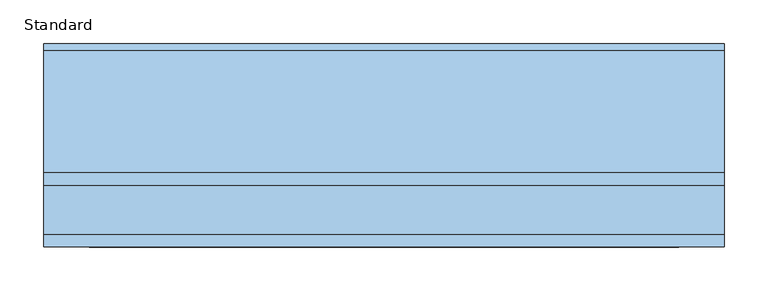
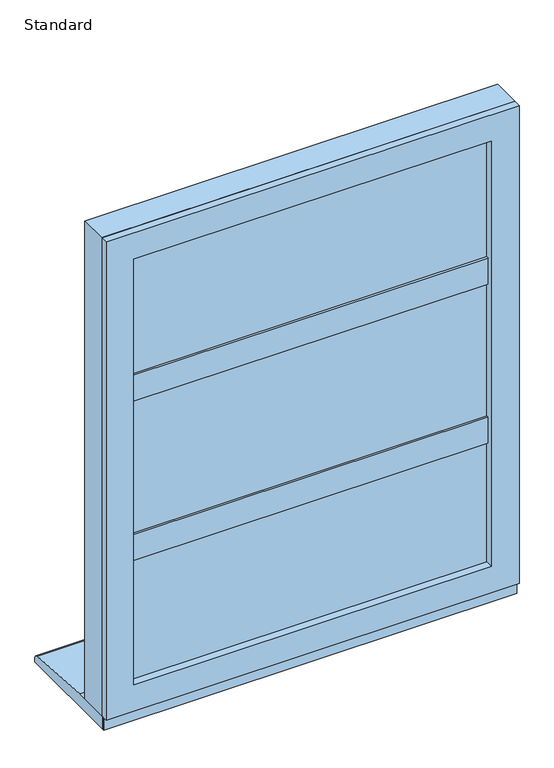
"""IFC4 building model written with IfcOpenShell, lengths in millimetres: window geometry, SMARTS_Alitherm600 : Standard."""

from ifc_helpers import new_model, si_unit, point, frame, frame_2d, origin, place, context, project, spatial, polyline, circle_curve, trimmed, segment, composite_curve, outline, extrude, faceted_brep, source, transform, mapped, element, save


def standard_7e199e20(model_context):
    return source(origin(), model_context, "Body", "SolidModel", [
        extrude(outline(polyline([(354.1020883, 102.8298432), (354.1020883, 47.2458572), (-354.1020883, 47.2458572), (-354.1020883, 102.8298432), (354.1020883, 102.8298432)])), frame((0.0, 0.0, 943.9333333), z_axis=(0.0, 0.0, 1.0), x_axis=(1.0, 0.0, 0.0)), (0.0, 0.0, 1.0), 18.8),
        extrude(outline(polyline([(337.6, 47.2458572), (337.6, 43.2798432), (-337.6, 43.2798432), (-337.6, 47.2458572), (337.6, 47.2458572)])), frame((0.0, 0.0, 927.431245), z_axis=(0.0, 0.0, 1.0), x_axis=(1.0, 0.0, 0.0)), (0.0, 0.0, 1.0), 51.8041766),
        extrude(outline(polyline([(354.1020883, 102.8298432), (354.1020883, 47.2458572), (-354.1020883, 47.2458572), (-354.1020883, 102.8298432), (354.1020883, 102.8298432)])), frame((0.0, 0.0, 1262.2666667), z_axis=(0.0, 0.0, 1.0), x_axis=(1.0, 0.0, 0.0)), (0.0, 0.0, 1.0), 18.8),
        extrude(outline(polyline([(337.6, 47.2458572), (337.6, 43.2798432), (-337.6, 43.2798432), (-337.6, 47.2458572), (337.6, 47.2458572)])), frame((0.0, 0.0, 1245.7645784), z_axis=(0.0, 0.0, 1.0), x_axis=(1.0, 0.0, 0.0)), (0.0, 0.0, 1.0), 51.8041766),
        extrude(outline(polyline([(-352.6, 77.7798432), (352.6, 77.7798432), (352.6, 73.7798432), (-352.6, 73.7798432), (-352.6, 77.7798432)])), frame((0.0, 0.0, 672.4), z_axis=(0.0, 0.0, 1.0), x_axis=(1.0, 0.0, 0.0)), (0.0, 0.0, 1.0), 269.9333333),
        extrude(outline(polyline([(-352.6, 57.7798432), (352.6, 57.7798432), (352.6, 53.7798432), (-352.6, 53.7798432), (-352.6, 57.7798432)])), frame((0.0, 0.0, 672.4), z_axis=(0.0, 0.0, 1.0), x_axis=(1.0, 0.0, 0.0)), (0.0, 0.0, 1.0), 269.9333333),
        extrude(outline(polyline([(942.3333333, -352.6), (672.4, -352.6), (672.4, 352.6), (942.3333333, 352.6), (942.3333333, -352.6)]), holes=[polyline([(932.3333333, 342.6), (682.4, 342.6), (682.4, -342.6), (932.3333333, -342.6), (932.3333333, 342.6)])]), frame((0.0, 57.7798432, 0.0), z_axis=(0.0, 1.0, 0.0), x_axis=(0.0, 0.0, 1.0)), (0.0, 0.0, 1.0), 16.0),
        faceted_brep([(-349.4160653, 102.7798432, 939.1493986), (-337.2339746, 81.6798432, 926.9673079), (-337.2339746, 81.6798432, 687.7660254), (-349.4160653, 102.7798432, 675.5839347), (337.2339746, 81.6798432, 687.7660254), (349.4160653, 102.7798432, 675.5839347), (337.2339746, 81.6798432, 926.9673079), (349.4160653, 102.7798432, 939.1493986), (354.1, 81.6798432, 943.8333333), (354.1, 102.7798432, 943.8333333), (-354.1, 102.7798432, 943.8333333), (-354.1, 81.6798432, 943.8333333), (-354.1, 102.7798432, 670.9), (-354.1, 81.6798432, 670.9), (354.1, 102.7798432, 670.9), (354.1, 81.6798432, 670.9)], [[[0, 1, 2, 3]], [[3, 2, 4, 5]], [[5, 4, 6, 7]], [[7, 6, 1, 0]], [[8, 9, 10, 11]], [[11, 10, 12, 13]], [[13, 12, 14, 15]], [[9, 14, 12, 10], [0, 3, 5, 7]], [[15, 14, 9, 8]], [[11, 13, 15, 8], [6, 4, 2, 1]]]),
        extrude(outline(polyline([(-352.6, 77.7798432), (352.6, 77.7798432), (352.6, 73.7798432), (-352.6, 73.7798432), (-352.6, 77.7798432)])), frame((0.0, 0.0, 964.3333333), z_axis=(0.0, 0.0, 1.0), x_axis=(1.0, 0.0, 0.0)), (0.0, 0.0, 1.0), 296.3333333),
        extrude(outline(polyline([(-352.6, 57.7798432), (352.6, 57.7798432), (352.6, 53.7798432), (-352.6, 53.7798432), (-352.6, 57.7798432)])), frame((0.0, 0.0, 964.3333333), z_axis=(0.0, 0.0, 1.0), x_axis=(1.0, 0.0, 0.0)), (0.0, 0.0, 1.0), 296.3333333),
        extrude(outline(polyline([(1260.6666667, -352.6), (964.3333333, -352.6), (964.3333333, 352.6), (1260.6666667, 352.6), (1260.6666667, -352.6)]), holes=[polyline([(1250.6666667, 342.6), (974.3333333, 342.6), (974.3333333, -342.6), (1250.6666667, -342.6), (1250.6666667, 342.6)])]), frame((0.0, 57.7798432, 0.0), z_axis=(0.0, 1.0, 0.0), x_axis=(0.0, 0.0, 1.0)), (0.0, 0.0, 1.0), 16.0),
        faceted_brep([(-349.4160653, 102.7798432, 1257.4827319), (-337.2339746, 81.6798432, 1245.3006413), (-337.2339746, 81.6798432, 979.6993587), (-349.4160653, 102.7798432, 967.5172681), (337.2339746, 81.6798432, 979.6993587), (349.4160653, 102.7798432, 967.5172681), (337.2339746, 81.6798432, 1245.3006413), (349.4160653, 102.7798432, 1257.4827319), (354.1, 81.6798432, 1262.1666667), (354.1, 102.7798432, 1262.1666667), (-354.1, 102.7798432, 1262.1666667), (-354.1, 81.6798432, 1262.1666667), (-354.1, 102.7798432, 962.8333333), (-354.1, 81.6798432, 962.8333333), (354.1, 102.7798432, 962.8333333), (354.1, 81.6798432, 962.8333333)], [[[0, 1, 2, 3]], [[3, 2, 4, 5]], [[5, 4, 6, 7]], [[7, 6, 1, 0]], [[8, 9, 10, 11]], [[11, 10, 12, 13]], [[13, 12, 14, 15]], [[9, 14, 12, 10], [0, 3, 5, 7]], [[15, 14, 9, 8]], [[11, 13, 15, 8], [6, 4, 2, 1]]]),
        extrude(outline(polyline([(1590.0, 390.0), (1590.0, -390.0), (635.0, -390.0), (635.0, 390.0), (1590.0, 390.0)]), holes=[polyline([(670.85, 354.15), (670.85, -354.15), (1554.15, -354.15), (1554.15, 354.15), (670.85, 354.15)])]), frame((0.0, 47.2798427, 0.0), z_axis=(0.0, 1.0, 0.0), x_axis=(0.0, 0.0, 1.0)), (0.0, 0.0, 1.0), 55.5500006),
        extrude(outline(polyline([(1590.0, 390.0), (1590.0, -390.0), (635.0, -390.0), (635.0, 390.0), (1590.0, 390.0)]), holes=[polyline([(687.35, 337.65), (687.35, -337.65), (1537.65, -337.65), (1537.65, 337.65), (687.35, 337.65)])]), frame((0.0, 32.8298432, 0.0), z_axis=(0.0, 1.0, 0.0), x_axis=(0.0, 0.0, 1.0)), (0.0, 0.0, 1.0), 14.4499994),
        extrude(outline(polyline([(-352.6, 77.7798432), (352.6, 77.7798432), (352.6, 73.7798432), (-352.6, 73.7798432), (-352.6, 77.7798432)])), frame((0.0, 0.0, 1282.6666667), z_axis=(0.0, 0.0, 1.0), x_axis=(1.0, 0.0, 0.0)), (0.0, 0.0, 1.0), 269.9333333),
        extrude(outline(polyline([(-352.6, 57.7798432), (352.6, 57.7798432), (352.6, 53.7798432), (-352.6, 53.7798432), (-352.6, 57.7798432)])), frame((0.0, 0.0, 1282.6666667), z_axis=(0.0, 0.0, 1.0), x_axis=(1.0, 0.0, 0.0)), (0.0, 0.0, 1.0), 269.9333333),
        extrude(outline(polyline([(1552.6, -352.6), (1282.6666667, -352.6), (1282.6666667, 352.6), (1552.6, 352.6), (1552.6, -352.6)]), holes=[polyline([(1542.6, 342.6), (1292.6666667, 342.6), (1292.6666667, -342.6), (1542.6, -342.6), (1542.6, 342.6)])]), frame((0.0, 57.7798432, 0.0), z_axis=(0.0, 1.0, 0.0), x_axis=(0.0, 0.0, 1.0)), (0.0, 0.0, 1.0), 16.0),
        faceted_brep([(-349.4160653, 102.7798432, 1549.4160653), (-337.2339746, 81.6798432, 1537.2339746), (-337.2339746, 81.6798432, 1298.0326921), (-349.4160653, 102.7798432, 1285.8506014), (337.2339746, 81.6798432, 1298.0326921), (349.4160653, 102.7798432, 1285.8506014), (337.2339746, 81.6798432, 1537.2339746), (349.4160653, 102.7798432, 1549.4160653), (354.1, 81.6798432, 1554.1), (354.1, 102.7798432, 1554.1), (-354.1, 102.7798432, 1554.1), (-354.1, 81.6798432, 1554.1), (-354.1, 102.7798432, 1281.1666667), (-354.1, 81.6798432, 1281.1666667), (354.1, 102.7798432, 1281.1666667), (354.1, 81.6798432, 1281.1666667)], [[[0, 1, 2, 3]], [[3, 2, 4, 5]], [[5, 4, 6, 7]], [[7, 6, 1, 0]], [[8, 9, 10, 11]], [[11, 10, 12, 13]], [[13, 12, 14, 15]], [[9, 14, 12, 10], [0, 3, 5, 7]], [[15, 14, 9, 8]], [[11, 13, 15, 8], [6, 4, 2, 1]]]),
        extrude(outline(polyline([(390.0, 43.2798432), (390.0, 40.7798432), (-390.0, 40.7798432), (-390.0, 43.2798432), (390.0, 43.2798432)])), frame((0.0, 0.0, 610.0), z_axis=(0.0, 0.0, 1.0), x_axis=(1.0, 0.0, 0.0)), (0.0, 0.0, 1.0), 31.0),
        extrude(outline(composite_curve([segment(polyline([(265.7798432, 610.0), (43.2798432, 610.0), (43.2798432, 635.0), (118.7798432, 635.0), (258.4770891, 625.9276664)]), True, "CONTINUOUS"), segment(trimmed(circle_curve(frame_2d((257.7798432, 617.9581088)), 8.0), [point((258.4770891, 625.9276664))], [point((265.7798432, 617.9581088))], False, "CARTESIAN"), True, "CONTINUOUS"), segment(polyline([(265.7798432, 617.9581088), (265.7798432, 610.0)]), True, "CONTINUOUS")], self_intersect=False)), frame((-390.0, 0.0, 0.0), z_axis=(1.0, 0.0, 0.0), x_axis=(0.0, 1.0, 0.0)), (0.0, 0.0, 1.0), 780.0),
    ])


if __name__ == "__main__":
    model = new_model("IFC4")
    model_context = context("Model", 3, world=origin())
    ifc_project = project(units=[si_unit("LENGTHUNIT", "METRE", prefix="MILLI")], contexts=[model_context])
    site = spatial("IfcSite", under=ifc_project)
    building = spatial("IfcBuilding", under=site)
    placement = place(None, origin())
    standard_shape = standard_7e199e20(model_context)
    element("IfcWindow", 1, ObjectType="SMARTS_Alitherm600 : Standard", at=placement, inside=building, context=model_context, shape_type="MappedRepresentation", body=[
        mapped(standard_shape, transform((0.0, 0.0, 0.0), x_axis=(1.0, 0.0, 0.0), y_axis=(0.0, 1.0, 0.0), z_axis=(0.0, 0.0, 1.0))),
    ])
    save(model, "model.ifc")
